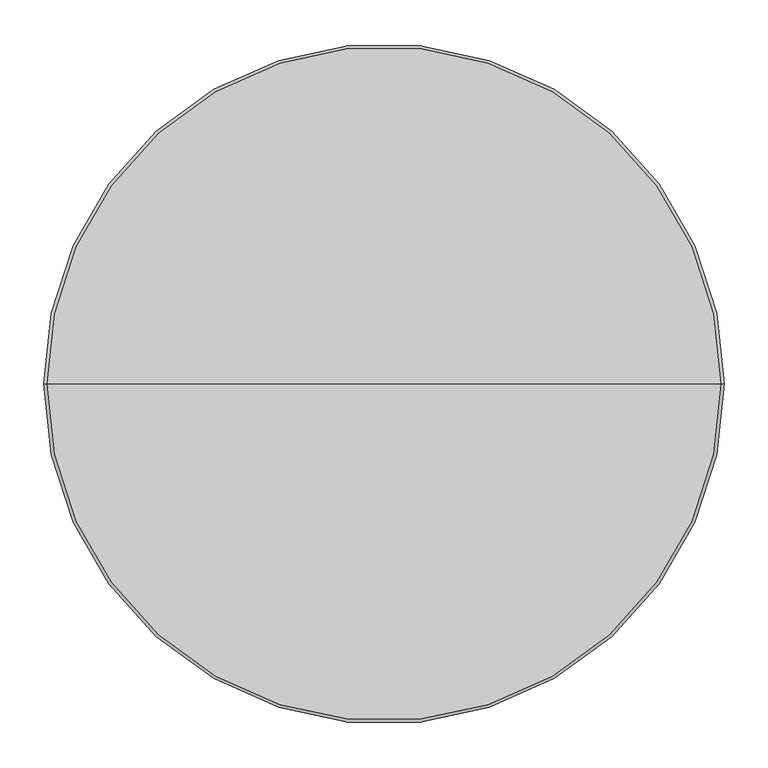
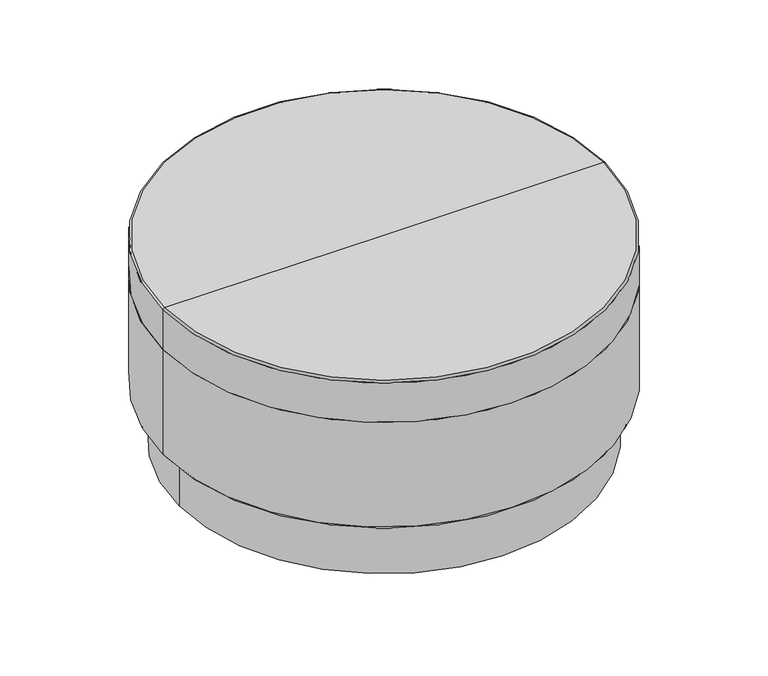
"""IFC4 building model written with IfcOpenShell, lengths in millimetres: furniture geometry, StanceHC-Drum_Table-Plinth_Base : 3-DRT30D16-U-PL."""

from ifc_helpers import new_model, si_unit, point, frame, frame_2d, origin, origin_with_axes, place, context, project, spatial, circle_curve, ellipse_curve, trimmed, segment, composite_curve, outline, extrude, source, transform, mapped, element, save
from ifc_brep_helpers import plane_surface, cylinder_surface, revolved_surface, advanced_brep


def furniture_904588d5(model_context):
    return source(origin(), model_context, "Body", "SolidModel", [
        extrude(outline(composite_curve([segment(trimmed(circle_curve(frame_2d((0.0, 326.3164845)), 12.7), [point((-12.7, 326.3164845))], [point((12.7, 326.3164845))], False, "CARTESIAN"), True, "CONTINUOUS"), segment(trimmed(circle_curve(frame_2d((0.0, 326.3164845)), 12.7), [point((12.7, 326.3164845))], [point((-12.7, 326.3164845))], False, "CARTESIAN"), True, "CONTINUOUS")], self_intersect=False)), origin_with_axes(), (0.0, 0.0, 1.0), 4.7625),
        extrude(outline(composite_curve([segment(trimmed(circle_curve(frame_2d((0.0, -326.3164845)), 12.7), [point((-12.7, -326.3164845))], [point((12.7, -326.3164845))], False, "CARTESIAN"), True, "CONTINUOUS"), segment(trimmed(circle_curve(frame_2d((0.0, -326.3164845)), 12.7), [point((12.7, -326.3164845))], [point((-12.7, -326.3164845))], False, "CARTESIAN"), True, "CONTINUOUS")], self_intersect=False)), origin_with_axes(), (0.0, 0.0, 1.0), 4.7625),
        extrude(outline(composite_curve([segment(trimmed(circle_curve(frame_2d((330.1996404, 0.0)), 12.7), [point((317.4996404, 0.0))], [point((342.8996404, 0.0))], False, "CARTESIAN"), True, "CONTINUOUS"), segment(trimmed(circle_curve(frame_2d((330.1996404, 0.0)), 12.7), [point((342.8996404, 0.0))], [point((317.4996404, 0.0))], False, "CARTESIAN"), True, "CONTINUOUS")], self_intersect=False)), origin_with_axes(), (0.0, 0.0, 1.0), 4.7625),
        extrude(outline(composite_curve([segment(trimmed(circle_curve(frame_2d((-330.1996404, 0.0)), 12.7), [point((-342.8996404, 0.0))], [point((-317.4996404, 0.0))], False, "CARTESIAN"), True, "CONTINUOUS"), segment(trimmed(circle_curve(frame_2d((-330.1996404, 0.0)), 12.7), [point((-317.4996404, 0.0))], [point((-342.8996404, 0.0))], False, "CARTESIAN"), True, "CONTINUOUS")], self_intersect=False)), origin_with_axes(), (0.0, 0.0, 1.0), 4.7625),
        advanced_brep(
        [(-382.5542756, 0.0, 106.3625), (382.5542756, 0.0, 106.3625), (358.7746404, 0.0, 106.3625), (-358.7746404, 0.0, 106.3625), (-382.5542756, 0.0, 111.125), (382.5542756, 0.0, 111.125), (0.0, 0.0, 111.125), (-358.7746404, 0.0, 4.7625), (358.7746404, 0.0, 4.7625), (0.0, 0.0, 4.7625)],
        [
            (0, 1, circle_curve(frame((0.0, 0.0, 106.3625), z_axis=(0.0, 0.0, -1.0), x_axis=(1.0, 0.0, 0.0)), 382.5542756)),
            (1, 2),
            (2, 3, circle_curve(frame((0.0, 0.0, 106.3625), z_axis=(0.0, 0.0, 1.0), x_axis=(1.0, 0.0, 0.0)), 358.7746404)),
            (3, 0),
            (1, 0, circle_curve(frame((0.0, 0.0, 106.3625), z_axis=(0.0, 0.0, -1.0), x_axis=(1.0, 0.0, 0.0)), 382.5542756)),
            (3, 2, circle_curve(frame((0.0, 0.0, 106.3625), z_axis=(0.0, 0.0, 1.0), x_axis=(1.0, 0.0, 0.0)), 358.7746404)),
            (4, 5, circle_curve(frame((0.0, 0.0, 111.125), z_axis=(0.0, 0.0, -1.0), x_axis=(1.0, 0.0, 0.0)), 382.5542756)),
            (5, 1, circle_curve(frame((382.5542756, 0.0, 108.74375), z_axis=(0.0, 1.0, 0.0), x_axis=(1.0, 0.0, 0.0)), 2.38125)),
            (0, 4, circle_curve(frame((-382.5542756, 0.0, 108.74375), z_axis=(0.0, 1.0, 0.0), x_axis=(-1.0, 0.0, 0.0)), 2.38125)),
            (5, 4, circle_curve(frame((0.0, 0.0, 111.125), z_axis=(0.0, 0.0, -1.0), x_axis=(1.0, 0.0, 0.0)), 382.5542756)),
            (6, 5),
            (4, 6),
            (7, 8, circle_curve(frame((0.0, 0.0, 4.7625), z_axis=(0.0, 0.0, -1.0), x_axis=(1.0, 0.0, 0.0)), 358.7746404)),
            (8, 9),
            (9, 7),
            (8, 7, circle_curve(frame((0.0, 0.0, 4.7625), z_axis=(0.0, 0.0, -1.0), x_axis=(1.0, 0.0, 0.0)), 358.7746404)),
            (2, 8),
            (7, 3),
        ],
        [
            plane_surface(frame((0.0, 0.0, 106.3625), z_axis=(0.0, 0.0, -1.0), x_axis=(1.0, 0.0, 0.0))),
            revolved_surface(trimmed(ellipse_curve(frame((382.5542756, 0.0, 108.74375), z_axis=(0.0, -1.0, 0.0), x_axis=(1.0, 0.0, 0.0)), 2.38125, 2.38125), [point((382.5542756, 0.0, 106.3625))], [point((382.5542756, 0.0, 111.125))], True, "CARTESIAN"), (0.0, 0.0, 165.1), (0.0, 0.0, 1.0)),
            plane_surface(frame((0.0, 0.0, 111.125), z_axis=(0.0, 0.0, 1.0), x_axis=(1.0, 0.0, 0.0))),
            plane_surface(frame((0.0, 0.0, 4.7625), z_axis=(0.0, 0.0, -1.0), x_axis=(1.0, 0.0, 0.0))),
            cylinder_surface(frame((0.0, 0.0, 165.1), z_axis=(0.0, 0.0, 1.0), x_axis=(1.0, 0.0, 0.0)), 358.7746404),
        ],
        [
            (0, [[1, 2, 3, 4]]),
            (0, [[5, -4, 6, -2]]),
            (1, [[7, 8, -1, 9]]),
            (1, [[10, -9, -5, -8]]),
            (2, [[11, -7, 12]]),
            (2, [[-12, -10, -11]]),
            (3, [[13, 14, 15]]),
            (3, [[16, -15, -14]]),
            (4, [[-3, 17, -13, 18]]),
            (4, [[-6, -18, -16, -17]]),
        ],
    ),
        advanced_brep(
        [(0.0, 0.0, 304.8), (387.35, 0.0, 304.8), (-387.35, 0.0, 304.8), (-387.35, 0.0, 111.125), (387.35, 0.0, 111.125), (0.0, 0.0, 111.125)],
        [
            (0, 1),
            (1, 2, circle_curve(frame((0.0, 0.0, 304.8), z_axis=(0.0, 0.0, 1.0), x_axis=(1.0, 0.0, 0.0)), 387.35)),
            (2, 0),
            (2, 1, circle_curve(frame((0.0, 0.0, 304.8), z_axis=(0.0, 0.0, 1.0), x_axis=(1.0, 0.0, 0.0)), 387.35)),
            (3, 4, circle_curve(frame((0.0, 0.0, 111.125), z_axis=(0.0, 0.0, -1.0), x_axis=(1.0, 0.0, 0.0)), 387.35)),
            (4, 5),
            (5, 3),
            (4, 3, circle_curve(frame((0.0, 0.0, 111.125), z_axis=(0.0, 0.0, -1.0), x_axis=(1.0, 0.0, 0.0)), 387.35)),
            (1, 4),
            (3, 2),
        ],
        [
            plane_surface(frame((0.0, 0.0, 304.8), z_axis=(0.0, 0.0, 1.0), x_axis=(1.0, 0.0, 0.0))),
            plane_surface(frame((0.0, 0.0, 111.125), z_axis=(0.0, 0.0, -1.0), x_axis=(1.0, 0.0, 0.0))),
            cylinder_surface(frame((0.0, 0.0, 457.2), z_axis=(0.0, 0.0, 1.0), x_axis=(1.0, 0.0, 0.0)), 387.35),
        ],
        [
            (0, [[1, 2, 3]]),
            (0, [[-3, 4, -1]]),
            (1, [[5, 6, 7]]),
            (1, [[8, -7, -6]]),
            (2, [[-2, 9, -5, 10]]),
            (2, [[-4, -10, -8, -9]]),
        ],
    ),
        advanced_brep(
        [(-387.35, 0.0, 304.8), (387.35, 0.0, 304.8), (0.0, 0.0, 304.8), (-387.35, 0.0, 377.8764933), (387.35, 0.0, 377.8764933), (-384.2264933, 0.0, 381.0), (384.2264933, 0.0, 381.0), (0.0, 0.0, 381.0)],
        [
            (0, 1, circle_curve(frame((0.0, 0.0, 304.8), z_axis=(0.0, 0.0, -1.0), x_axis=(1.0, 0.0, 0.0)), 387.35)),
            (1, 2),
            (2, 0),
            (1, 0, circle_curve(frame((0.0, 0.0, 304.8), z_axis=(0.0, 0.0, -1.0), x_axis=(1.0, 0.0, 0.0)), 387.35)),
            (3, 4, circle_curve(frame((0.0, 0.0, 377.8764933), z_axis=(0.0, 0.0, -1.0), x_axis=(1.0, 0.0, 0.0)), 387.35)),
            (4, 1),
            (0, 3),
            (4, 3, circle_curve(frame((0.0, 0.0, 377.8764933), z_axis=(0.0, 0.0, -1.0), x_axis=(1.0, 0.0, 0.0)), 387.35)),
            (5, 6, circle_curve(frame((0.0, 0.0, 381.0), z_axis=(0.0, 0.0, -1.0), x_axis=(1.0, 0.0, 0.0)), 384.2264933)),
            (6, 4, circle_curve(frame((384.2264933, 0.0, 377.8764933), z_axis=(0.0, 1.0, 0.0), x_axis=(1.0, 0.0, 0.0)), 3.1235067)),
            (3, 5, circle_curve(frame((-384.2264933, 0.0, 377.8764933), z_axis=(0.0, 1.0, 0.0), x_axis=(-1.0, 0.0, 0.0)), 3.1235067)),
            (6, 5, circle_curve(frame((0.0, 0.0, 381.0), z_axis=(0.0, 0.0, -1.0), x_axis=(1.0, 0.0, 0.0)), 384.2264933)),
            (7, 6),
            (5, 7),
        ],
        [
            plane_surface(frame((0.0, 0.0, 304.8), z_axis=(0.0, 0.0, -1.0), x_axis=(1.0, 0.0, 0.0))),
            cylinder_surface(frame((0.0, 0.0, 476.25), z_axis=(0.0, 0.0, 1.0), x_axis=(1.0, 0.0, 0.0)), 387.35),
            revolved_surface(trimmed(ellipse_curve(frame((384.2264933, 0.0, 377.8764933), z_axis=(0.0, -1.0, 0.0), x_axis=(1.0, 0.0, 0.0)), 3.1235067, 3.1235067), [point((387.35, 0.0, 377.8764933))], [point((384.2264933, 0.0, 381.0))], True, "CARTESIAN"), (0.0, 0.0, 476.25), (0.0, 0.0, 1.0)),
            plane_surface(frame((0.0, 0.0, 381.0), z_axis=(0.0, 0.0, 1.0), x_axis=(1.0, 0.0, 0.0))),
        ],
        [
            (0, [[1, 2, 3]]),
            (0, [[4, -3, -2]]),
            (1, [[5, 6, -1, 7]]),
            (1, [[8, -7, -4, -6]]),
            (2, [[9, 10, -5, 11]]),
            (2, [[12, -11, -8, -10]]),
            (3, [[13, -9, 14]]),
            (3, [[-14, -12, -13]]),
        ],
    ),
    ])


if __name__ == "__main__":
    model = new_model("IFC4")
    model_context = context("Model", 3, world=origin())
    ifc_project = project(units=[si_unit("LENGTHUNIT", "METRE", prefix="MILLI")], contexts=[model_context])
    site = spatial("IfcSite", under=ifc_project)
    building = spatial("IfcBuilding", under=site)
    placement = place(None, origin())
    furniture_shape = furniture_904588d5(model_context)
    element("IfcFurniture", 1, ObjectType="StanceHC-Drum_Table-Plinth_Base : 3-DRT30D16-U-PL", at=placement, inside=building, context=model_context, shape_type="MappedRepresentation", body=[
        mapped(furniture_shape, transform((0.0, 0.0, 0.0), x_axis=(1.0, 0.0, 0.0), y_axis=(0.0, 1.0, 0.0), z_axis=(0.0, 0.0, 1.0))),
    ])
    save(model, "model.ifc")
